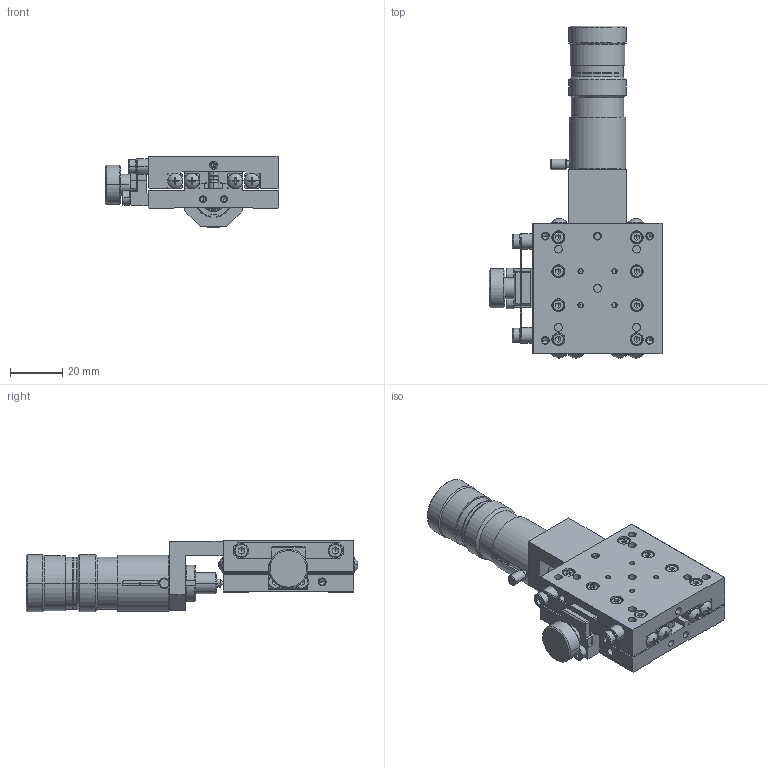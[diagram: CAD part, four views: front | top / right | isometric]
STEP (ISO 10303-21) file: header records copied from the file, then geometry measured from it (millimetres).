
FILE_DESCRIPTION (( 'STEP AP214' ), '1' );
FILE_NAME ('XM05A-C3Z-CL.STEP', '2007-08-07T00:13:39', ( ' ' ), ( ' ' ), 'SwSTEP 2.0', 'SolidWorks 2006052', '' );
FILE_SCHEMA (( 'AUTOMOTIVE_DESIGN' ));
Length unit declared in the file: millimetre
Products named in the file (5): 001010-1023(3D)-2; 001010-1023(3D)-Part-2-2; 001010-1023(3D)-Part-1-2; XM05A-C3Z-CL; 001010-1011(3D)-6
Assembly tree (4 placements, depth 3):
  XM05A-C3Z-CL
    001010-1011(3D)-6
    001010-1023(3D)-2
      001010-1023(3D)-Part-1-2
      001010-1023(3D)-Part-2-2
Bounding box: 66.5 x 127.18 x 27.5 mm (x, y, z)
Volume: 68112.6 mm3; surface area: 36714.2 mm2
Topology: 3 solids, 45 shells, 1636 faces, 3768 edges, 2240 vertices
Faces by surface type: plane 740, cylinder 501, cone 290, torus 88, sphere 17
Entity records: 46215 total; most frequent: CARTESIAN_POINT 8495, DIRECTION 8442, ORIENTED_EDGE 7332, EDGE_CURVE 3666, AXIS2_PLACEMENT_3D 3270, VERTEX_POINT 2239, VECTOR 1902, LINE 1902
